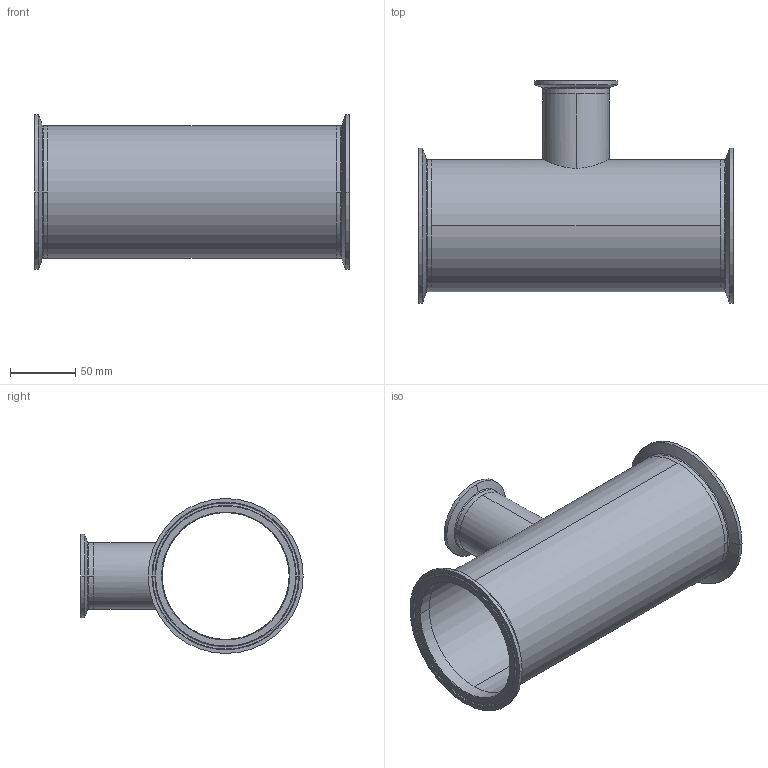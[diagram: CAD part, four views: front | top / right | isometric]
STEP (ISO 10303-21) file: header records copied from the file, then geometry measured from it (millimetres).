
FILE_DESCRIPTION (( 'STEP AP214' ), '1' );
FILE_NAME ('TEG7R6L4.0x2.0-...STEP', '2016-05-24T07:28:36', ( 'eran' ), ( '' ), 'SwSTEP 2.0', 'SolidWorks 2016', '' );
FILE_SCHEMA (( 'AUTOMOTIVE_DESIGN' ));
Length unit declared in the file: millimetre
Products named in the file (1): TEG7R6L4.0x2.0-..
Bounding box: 241.4 x 170.56 x 118.92 mm (x, y, z)
Volume: 201379.9 mm3; surface area: 184689.2 mm2
Topology: 4 solids, 4 shells, 86 faces, 212 edges, 138 vertices
Faces by surface type: bspline 30, cylinder 26, cone 18, plane 12
Entity records: 4906 total; most frequent: CARTESIAN_POINT 2809, DIRECTION 450, ORIENTED_EDGE 424, EDGE_CURVE 212, AXIS2_PLACEMENT_3D 203, CIRCLE 146, VERTEX_POINT 138, EDGE_LOOP 100
